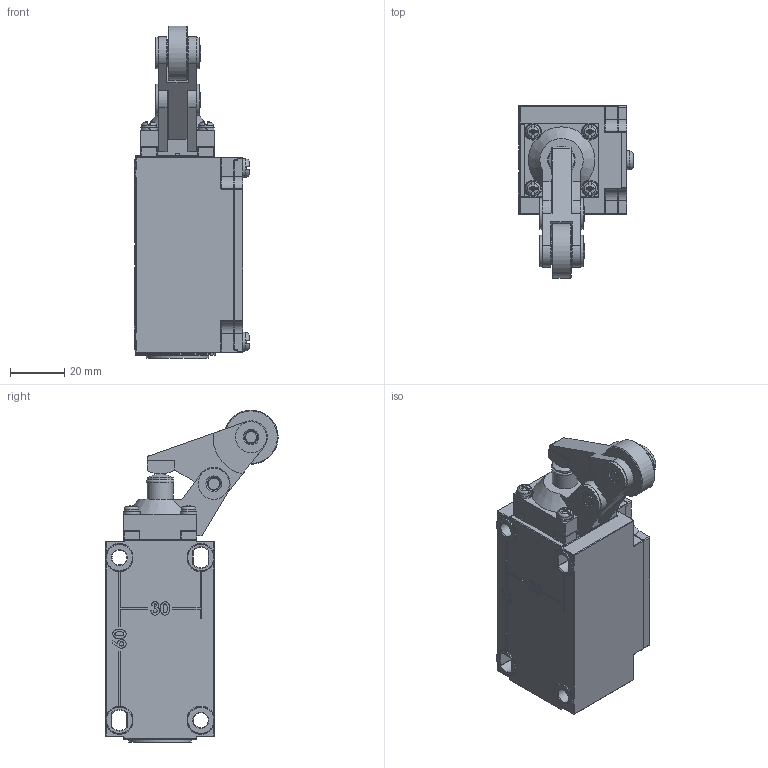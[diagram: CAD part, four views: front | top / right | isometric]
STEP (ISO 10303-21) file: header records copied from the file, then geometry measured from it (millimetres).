
FILE_DESCRIPTION(('Interruptor de Posicao EN50041 c/ Cabecote Alavanca Lateral em Plastico c/ Roldana em Aco'),'2;1');
FILE_NAME('E:\WorkFolder\Bibl\3DWeb\kp_lb_lb3$$v1_step.stp','2011-12-16T15:31:13',('DIE'),('KAP Componentes Eletricos Ltda.'),'Autodesk Inventor 2011','Autodesk Inventor 2011','Direitos reservados. Proibido reproducao, cedencia ou revelacao de conteudo a terceiros, salvo com autorizacao.');
FILE_SCHEMA(('AUTOMOTIVE_DESIGN { 1 0 10303 214 1 1 1 1 }'));
Length unit declared in the file: millimetre
Products named in the file (3): LB3$$V1; LB3$$; LBV1
Assembly tree (2 placements, depth 2):
  LB3$$V1
    LB3$$
    LBV1
Bounding box: 42.66 x 63.53 x 122.39 mm (x, y, z)
Volume: 120825.2 mm3; surface area: 31859.2 mm2
Topology: 2 solids, 12 shells, 1160 faces, 2963 edges, 1782 vertices
Faces by surface type: plane 459, cylinder 299, torus 144, bspline 114, cone 80, sphere 64
Full cylindrical faces by diameter (mm): 2.5 x4, 2.6 x4, 2.7 x4, 3 x4, 3.3 x2, 3.4 x2, 3.5 x4, 3.6 x8, 4 x2, 4.3 x2, 4.5 x2, 4.763 x2, 4.8 x4, 5.5 x2, 8.6 x1, 9.525 x2, 10 x1, 11.5 x6, 13 x1, 18.5 x1, 19.1 x1, 19.8 x4, 20 x1, 23 x1
Entity records: 38102 total; most frequent: CARTESIAN_POINT 11540, DIRECTION 5418, ORIENTED_EDGE 5332, EDGE_CURVE 2666, AXIS2_PLACEMENT_3D 2109, VERTEX_POINT 1717, EDGE_LOOP 1375, VECTOR 1200
